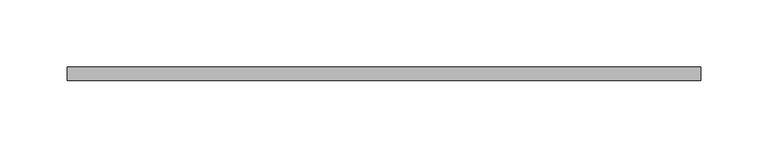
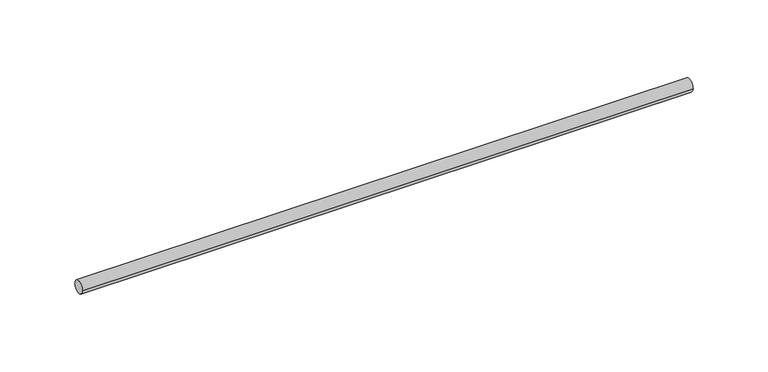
"""IFC4 building model written with IfcOpenShell, lengths in millimetres: valve geometry, Superfix Threaded Rod (used for clamps) : Threaded Rod - 1000 mm (used for clamps)."""

from ifc_helpers import new_model, si_unit, point, frame, origin, origin_2d, place, context, project, spatial, circle_curve, trimmed, segment, composite_curve, outline, extrude, source, transform, mapped, element, save


def valve_e67c9111(model_context):
    return source(origin(), model_context, "Body", "SweptSolid", [
        extrude(outline(composite_curve([segment(trimmed(circle_curve(origin_2d(), 5.0), [point((-5.0, 0.0))], [point((5.0, 0.0))], False, "CARTESIAN"), True, "CONTINUOUS"), segment(trimmed(circle_curve(origin_2d(), 5.0), [point((5.0, 0.0))], [point((-5.0, 0.0))], False, "CARTESIAN"), True, "CONTINUOUS")], self_intersect=False)), frame((-10.0, 0.0, 0.0), z_axis=(1.0, 0.0, 0.0), x_axis=(0.0, 1.0, 0.0)), (0.0, 0.0, 1.0), 470.0),
    ])


if __name__ == "__main__":
    model = new_model("IFC4")
    model_context = context("Model", 3, world=origin())
    ifc_project = project(units=[si_unit("LENGTHUNIT", "METRE", prefix="MILLI")], contexts=[model_context])
    site = spatial("IfcSite", under=ifc_project)
    building = spatial("IfcBuilding", under=site)
    placement = place(None, origin())
    valve_shape = valve_e67c9111(model_context)
    element("IfcValve", 1, ObjectType="Superfix Threaded Rod (used for clamps) : Threaded Rod - 1000 mm (used for clamps)", at=placement, inside=building, context=model_context, shape_type="MappedRepresentation", body=[
        mapped(valve_shape, transform((0.0, 0.0, 0.0), x_axis=(1.0, 0.0, 0.0), y_axis=(0.0, 1.0, 0.0), z_axis=(0.0, 0.0, 1.0))),
    ])
    save(model, "model.ifc")
